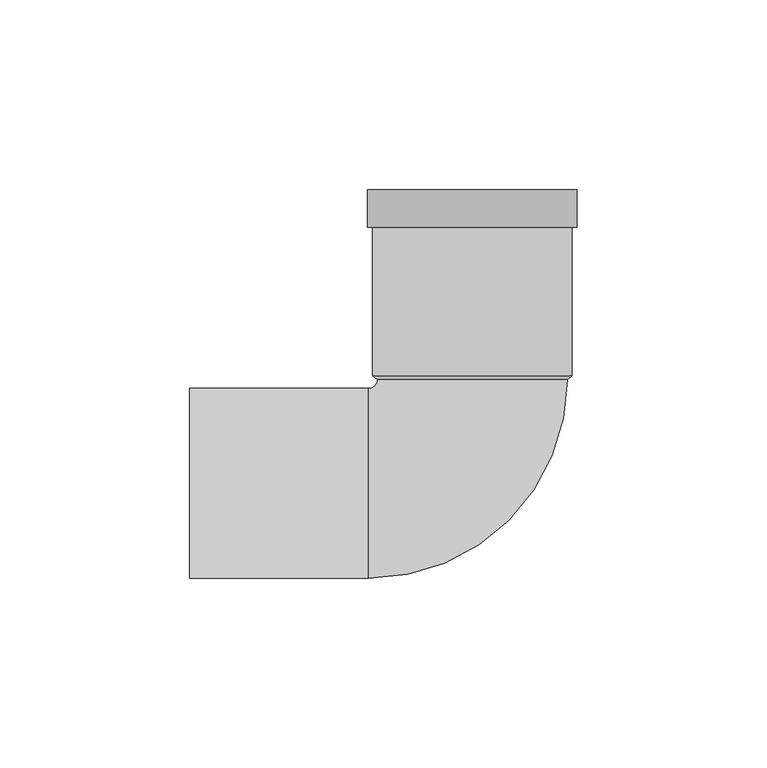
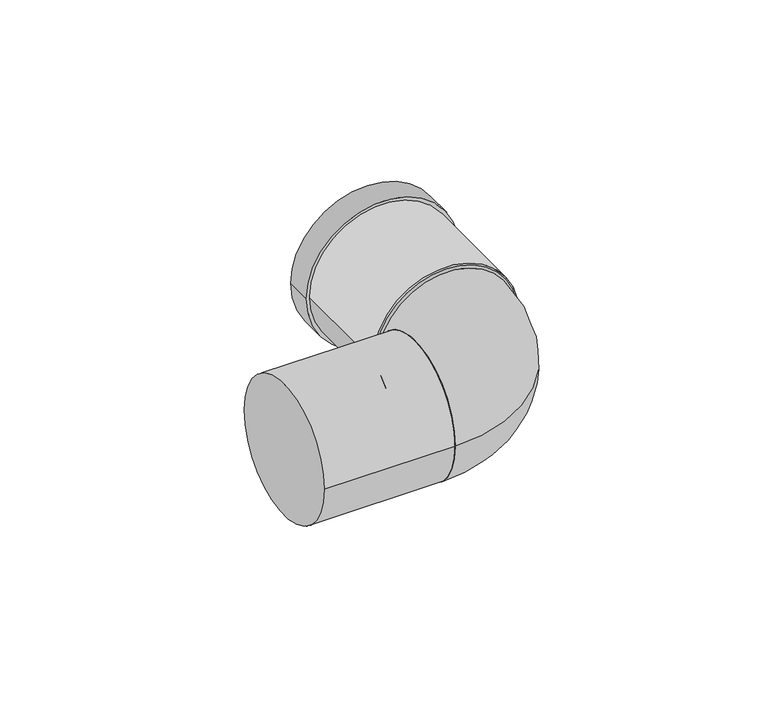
"""IFC4 building model written with IfcOpenShell, lengths in millimetres: pipe fitting geometry, Superdrain HT bend : Superdrain HT Bend."""

from ifc_helpers import new_model, si_unit, point, frame, origin, origin_2d, place, context, project, spatial, polyline, circle_curve, ellipse_curve, trimmed, segment, composite_curve, outline, extrude, source, transform, mapped, element, save
from ifc_brep_helpers import plane_surface, revolved_surface, advanced_brep


def pipe_fitting_cb3342d3(model_context):
    return source(origin(), model_context, "Body", "SolidModel", [
        advanced_brep(
        [(25.0, 27.3, 0.0), (-25.0, 27.3, 0.0), (-27.3, -25.0, 0.0), (-27.3, 25.0, 0.0)],
        [
            (0, 1, circle_curve(frame((0.0, 27.3, 0.0), z_axis=(0.0, 1.0, 0.0), x_axis=(-1.0, 0.0, 0.0)), 25.0)),
            (1, 0, circle_curve(frame((0.0, 27.3, 0.0), z_axis=(0.0, 1.0, 0.0), x_axis=(-1.0, 0.0, 0.0)), 25.0)),
            (2, 3, circle_curve(frame((-27.3, 0.0, 0.0), z_axis=(-1.0, 0.0, 0.0), x_axis=(0.0, 1.0, 0.0)), 25.0)),
            (3, 2, circle_curve(frame((-27.3, 0.0, 0.0), z_axis=(-1.0, 0.0, 0.0), x_axis=(0.0, 1.0, 0.0)), 25.0)),
            (3, 1, circle_curve(frame((-27.3, 27.3, 0.0), z_axis=(0.0, 0.0, 1.0), x_axis=(1.0, 0.0, 0.0)), 2.3)),
            (0, 2, circle_curve(frame((-27.3, 27.3, 0.0), z_axis=(0.0, 0.0, -1.0), x_axis=(1.0, 0.0, 0.0)), 52.3)),
        ],
        [
            plane_surface(frame((0.0, 27.3, 0.0), z_axis=(0.0, 1.0, 0.0), x_axis=(0.0, 0.0, -1.0))),
            plane_surface(frame((-27.3, 0.0, 0.0), z_axis=(-1.0, 0.0, 0.0), x_axis=(0.0, 0.0, -1.0))),
            revolved_surface(trimmed(ellipse_curve(frame((0.0, 27.3, 0.0), z_axis=(0.0, -1.0, 0.0), x_axis=(-1.0, 0.0, 0.0)), 25.0, 25.0), [point((-25.0, 27.3, 0.0))], [point((25.0, 27.3, 0.0))], True, "CARTESIAN"), (-27.3, 27.3, 0.0), (0.0, 0.0, 1.0)),
            revolved_surface(trimmed(ellipse_curve(frame((0.0, 27.3, 0.0), z_axis=(0.0, -1.0, 0.0), x_axis=(-1.0, 0.0, 0.0)), 25.0, 25.0), [point((25.0, 27.3, 0.0))], [point((-25.0, 27.3, 0.0))], True, "CARTESIAN"), (-27.3, 27.3, 0.0), (0.0, 0.0, 1.0)),
        ],
        [
            (0, [[1, 2]]),
            (1, [[3, 4]]),
            (2, [[-4, 5, -1, 6]]),
            (3, [[-3, -6, -2, -5]]),
        ],
    ),
        extrude(outline(composite_curve([segment(trimmed(circle_curve(origin_2d(), 26.25), [point((0.0, 26.25))], [point((0.0, -26.25))], False, "CARTESIAN"), True, "CONTINUOUS"), segment(trimmed(circle_curve(origin_2d(), 26.25), [point((0.0, -26.25))], [point((0.0, 26.25))], False, "CARTESIAN"), True, "CONTINUOUS")], self_intersect=False), holes=[composite_curve([segment(trimmed(circle_curve(origin_2d(), 25.0), [point((0.0, 25.0))], [point((0.0, -25.0))], True, "CARTESIAN"), True, "CONTINUOUS"), segment(trimmed(circle_curve(origin_2d(), 25.0), [point((0.0, -25.0))], [point((0.0, 25.0))], True, "CARTESIAN"), True, "CONTINUOUS")], self_intersect=False)]), frame((0.0, 28.3, 0.0), z_axis=(0.0, 1.0, 0.0), x_axis=(0.0, 0.0, 1.0)), (0.0, 0.0, 1.0), 49.0),
        extrude(outline(composite_curve([segment(trimmed(circle_curve(origin_2d(), 27.5625), [point((0.0, -27.5625))], [point((0.0, 27.5625))], False, "CARTESIAN"), True, "CONTINUOUS"), segment(trimmed(circle_curve(origin_2d(), 27.5625), [point((0.0, 27.5625))], [point((0.0, -27.5625))], False, "CARTESIAN"), True, "CONTINUOUS")], self_intersect=False), holes=[composite_curve([segment(trimmed(circle_curve(origin_2d(), 25.0), [point((0.0, -25.0))], [point((0.0, 25.0))], True, "CARTESIAN"), True, "CONTINUOUS"), segment(trimmed(circle_curve(origin_2d(), 25.0), [point((0.0, 25.0))], [point((0.0, -25.0))], True, "CARTESIAN"), True, "CONTINUOUS")], self_intersect=False)]), frame((0.0, 67.5, 0.0), z_axis=(0.0, 1.0, 0.0), x_axis=(0.0, 0.0, 1.0)), (0.0, 0.0, 1.0), 9.8),
        advanced_brep(
        [(26.25, 28.3, 0.0), (-26.25, 28.3, 0.0), (25.0, 27.3, 0.0), (-25.0, 27.3, 0.0)],
        [
            (0, 1, circle_curve(frame((0.0, 28.3, 0.0), z_axis=(0.0, 1.0, 0.0), x_axis=(1.0, 0.0, 0.0)), 26.25)),
            (1, 0, circle_curve(frame((0.0, 28.3, 0.0), z_axis=(0.0, 1.0, 0.0), x_axis=(-1.0, 0.0, 0.0)), 26.25)),
            (2, 3, circle_curve(frame((0.0, 27.3, 0.0), z_axis=(0.0, -1.0, 0.0), x_axis=(-1.0, 0.0, 0.0)), 25.0)),
            (3, 2, circle_curve(frame((0.0, 27.3, 0.0), z_axis=(0.0, -1.0, 0.0), x_axis=(1.0, 0.0, 0.0)), 25.0)),
            (3, 1),
            (0, 2),
        ],
        [
            plane_surface(frame((0.0, 28.3, 0.0), z_axis=(0.0, 1.0, 0.0), x_axis=(0.0, 0.0, -1.0))),
            plane_surface(frame((0.0, 27.3, 0.0), z_axis=(0.0, -1.0, 0.0), x_axis=(0.0, 0.0, -1.0))),
            revolved_surface(polyline([(-25.0, 27.3, 0.0), (-26.25, 28.3, 0.0)]), (0.0, 7.3, 0.0), (0.0, 1.0, 0.0)),
            revolved_surface(polyline([(25.0, 27.3, 0.0), (26.25, 28.3, 0.0)]), (0.0, 7.3, 0.0), (0.0, 1.0, 0.0)),
        ],
        [
            (0, [[1, 2]]),
            (1, [[3, 4]]),
            (2, [[-4, 5, -1, 6]]),
            (3, [[-3, -6, -2, -5]]),
        ],
    ),
        extrude(outline(composite_curve([segment(trimmed(circle_curve(origin_2d(), 25.0), [point((-25.0, 0.0))], [point((25.0, 0.0))], False, "CARTESIAN"), True, "CONTINUOUS"), segment(trimmed(circle_curve(origin_2d(), 25.0), [point((25.0, 0.0))], [point((-25.0, 0.0))], False, "CARTESIAN"), True, "CONTINUOUS")], self_intersect=False)), frame((-74.5, 0.0, 0.0), z_axis=(1.0, 0.0, 0.0), x_axis=(0.0, 1.0, 0.0)), (0.0, 0.0, 1.0), 47.2),
    ])


if __name__ == "__main__":
    model = new_model("IFC4")
    model_context = context("Model", 3, world=origin())
    ifc_project = project(units=[si_unit("LENGTHUNIT", "METRE", prefix="MILLI")], contexts=[model_context])
    site = spatial("IfcSite", under=ifc_project)
    building = spatial("IfcBuilding", under=site)
    placement = place(None, origin())
    pipe_fitting_shape = pipe_fitting_cb3342d3(model_context)
    element("IfcPipeFitting", 1, ObjectType="Superdrain HT bend : Superdrain HT Bend", at=placement, inside=building, context=model_context, shape_type="MappedRepresentation", body=[
        mapped(pipe_fitting_shape, transform((0.0, 0.0, 0.0), x_axis=(1.0, 0.0, 0.0), y_axis=(0.0, 1.0, 0.0), z_axis=(0.0, 0.0, 1.0))),
    ])
    save(model, "model.ifc")
